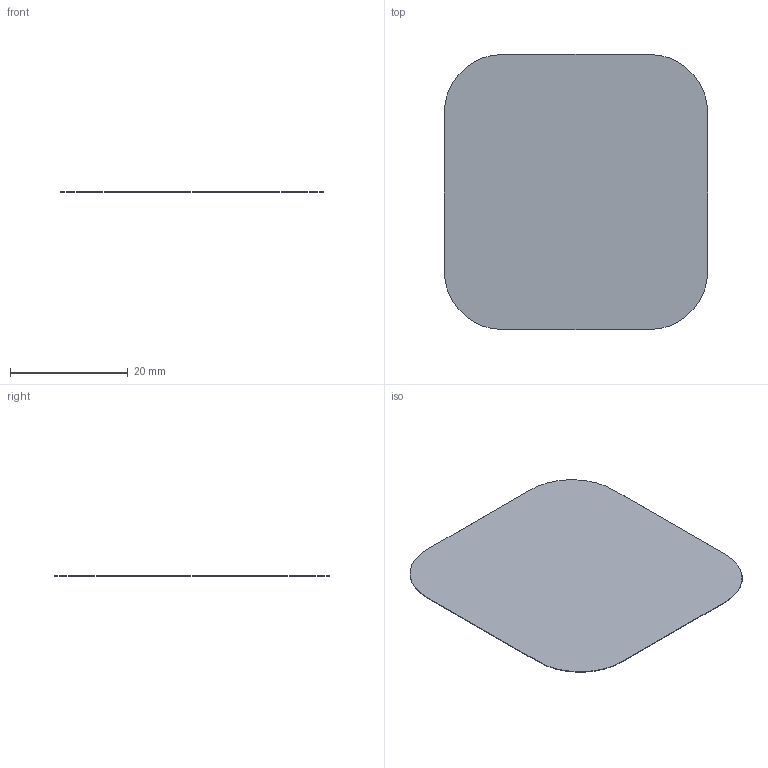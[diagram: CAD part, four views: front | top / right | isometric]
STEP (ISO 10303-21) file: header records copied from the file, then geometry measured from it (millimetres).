
FILE_DESCRIPTION(/* description */ (''),/* implementation_level */ '2;1');
FILE_NAME(/* name */ 'C28_R1_60_Black_Acoustic_Scrim.step',/* time_stamp */ '2026-09-10T17:49:46-07:00',/* author */ (''),/* organization */ (''),/* preprocessor_version */ 'ST-DEVELOPER v20.1',/* originating_system */ 'Autodesk Translation Framework v15.8.0.0',/* authorisation */ '');
FILE_SCHEMA (('AUTOMOTIVE_DESIGN { 1 0 10303 214 3 1 1 }'));
Length unit declared in the file: millimetre
Products named in the file (1): 2026-09-10-17-49-46-190
Bounding box: 44.8 x 46.8 x 0.1 mm (x, y, z)
Volume: 201.3 mm3; surface area: 4041.6 mm2
Topology: 1 solids, 1 shells, 10 faces, 24 edges, 16 vertices
Faces by surface type: plane 6, cylinder 4
Entity records: 329 total; most frequent: DIRECTION 54, CARTESIAN_POINT 51, ORIENTED_EDGE 48, EDGE_CURVE 24, AXIS2_PLACEMENT_3D 19, LINE 16, VECTOR 16, VERTEX_POINT 16
